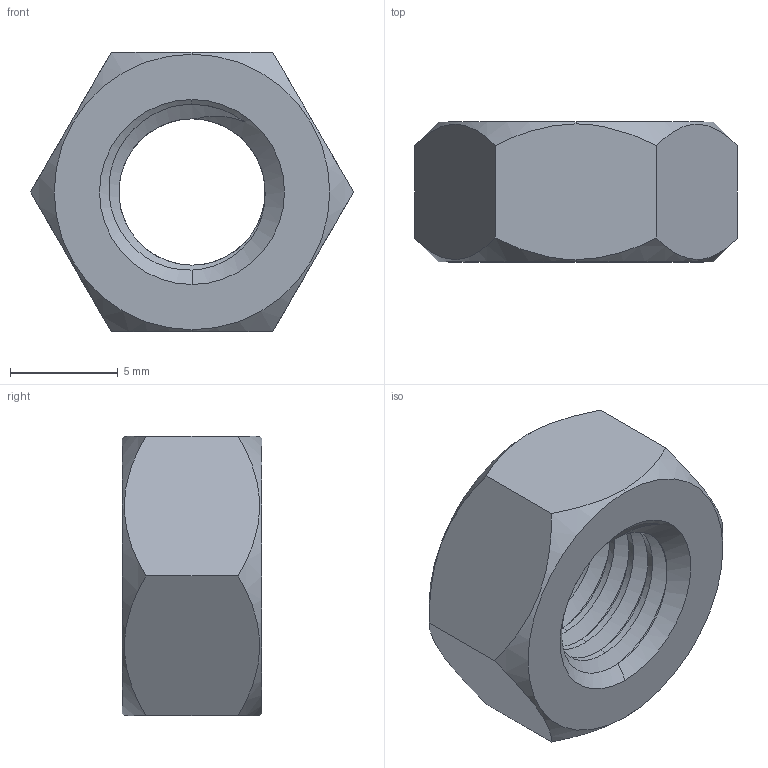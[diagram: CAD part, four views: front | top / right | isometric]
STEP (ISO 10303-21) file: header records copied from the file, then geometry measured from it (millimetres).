
FILE_DESCRIPTION (( 'STEP AP203' ), '1' );
FILE_NAME ('TAN-304RN-M8.STEP', '2026-08-20T13:32:00', ( '' ), ( '' ), 'SwSTEP 2.0', 'SolidWorks 2020', '' );
FILE_SCHEMA (( 'CONFIG_CONTROL_DESIGN' ));
Length unit declared in the file: millimetre
Products named in the file (1): TAN-304RN-M8
Bounding box: 15.01 x 6.5 x 13 mm (x, y, z)
Volume: 652.7 mm3; surface area: 694.7 mm2
Topology: 1 solids, 1 shells, 29 faces, 81 edges, 54 vertices
Faces by surface type: cylinder 10, cone 8, plane 8, bspline 3
Entity records: 3091 total; most frequent: CARTESIAN_POINT 2367, ORIENTED_EDGE 162, DIRECTION 99, EDGE_CURVE 81, VERTEX_POINT 54, AXIS2_PLACEMENT_3D 38, B_SPLINE_CURVE_WITH_KNOTS 35, EDGE_LOOP 31
